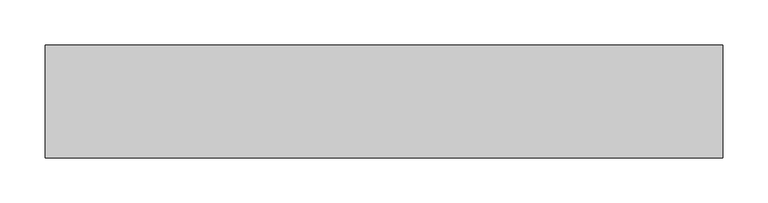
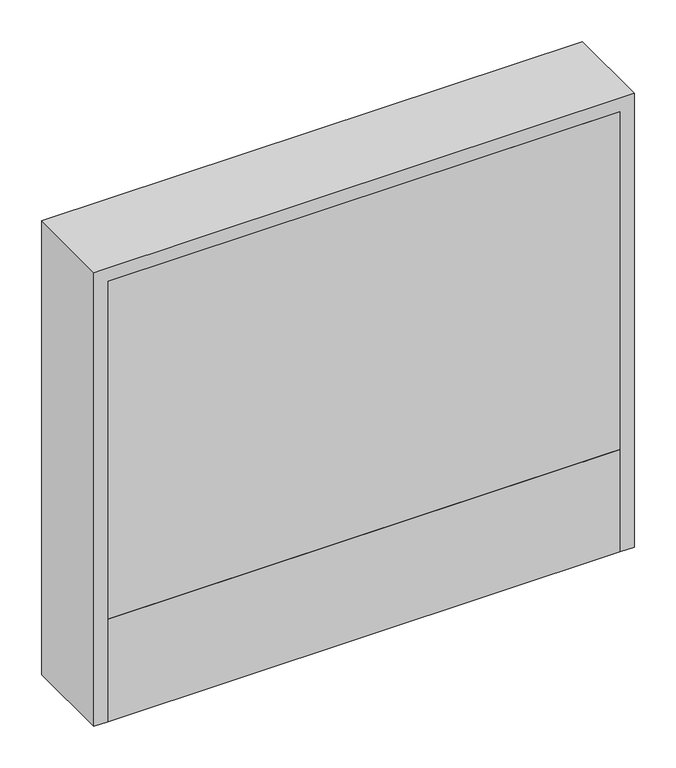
"""IFC4 building model written with IfcOpenShell, lengths in millimetres: valve geometry, PL AT Cabinet above plaster : FT-AK2 5-9 manifold loops."""

import ifcopenshell
import ifcopenshell.guid

model = None  # the IFC model being written
_history = None  # IfcOwnerHistory: only IFC2X3 demands one
_inside = {}  # id of a spatial element -> (the spatial element, [elements in it])
_under = {}  # id of a project, library or spatial element -> (it, [spatial elements below it])
_declared = {}  # id of a project -> (the project, [libraries it declares])
_typed = {}  # id of a type object -> (the type object, [elements of that type])
_made_of = {}  # id of a material, layer set ... -> (it, [elements and type objects made of it])


def new_model(schema):
    """Start an empty IFC model of exactly this schema.

    Asked for "IFC4X3", IfcOpenShell would pick the latest addendum, in which some entities
    have other attributes; the version numbers below select the first issue.
    IFC2X3 requires an IfcOwnerHistory on every rooted entity: one is made here for all.
    """
    global model, _history
    if schema == "IFC4X3":
        model = ifcopenshell.file(schema_version=(4, 3, 0, 0))
    else:
        model = ifcopenshell.file(schema=schema)
    _inside.clear()
    _under.clear()
    _declared.clear()
    _typed.clear()
    _made_of.clear()
    _history = None
    if model.schema == "IFC2X3":
        org = make("IfcOrganization", Name="unknown")
        user = make(
            "IfcPersonAndOrganization",
            ThePerson=make("IfcPerson", FamilyName="unknown"),
            TheOrganization=org,
        )
        app = make(
            "IfcApplication",
            ApplicationDeveloper=org,
            Version="unknown",
            ApplicationFullName="unknown",
            ApplicationIdentifier="unknown",
        )
        _history = make(
            "IfcOwnerHistory",
            OwningUser=user,
            OwningApplication=app,
            ChangeAction="ADDED",
            CreationDate=0,
        )
    return model


def make(cls, **values):
    """One entity of the class cls with the attributes given. An attribute that is None is left unset."""
    return model.create_entity(
        cls, **{name: value for name, value in values.items() if value is not None}
    )


def rooted(cls, **values):
    """An entity with a GlobalId (a new one), such as an element, a storey or a relation."""
    return make(cls, GlobalId=ifcopenshell.guid.new(), OwnerHistory=_history, **values)


def si_unit(unit_type, name, prefix=None):
    """IfcSIUnit, for example si_unit("LENGTHUNIT", "METRE", prefix="MILLI")."""
    return make("IfcSIUnit", UnitType=unit_type, Prefix=prefix, Name=name)


def assignment(units):
    """IfcUnitAssignment: the units of a project."""
    return None if units is None else make("IfcUnitAssignment", Units=units)


def point(xyz):
    """IfcCartesianPoint."""
    return None if xyz is None else make("IfcCartesianPoint", Coordinates=xyz)


def direction(xyz):
    """IfcDirection."""
    return None if xyz is None else make("IfcDirection", DirectionRatios=xyz)


def frame(location, z_axis=None, x_axis=None):
    """IfcAxis2Placement3D, a coordinate frame: its origin and axes. An axis left out is left unset."""
    return make(
        "IfcAxis2Placement3D",
        Location=point(location),
        Axis=direction(z_axis),
        RefDirection=direction(x_axis),
    )


def origin():
    """The frame at (0, 0, 0) with its axes left unset."""
    return frame((0.0, 0.0, 0.0))


def origin_with_axes():
    """The frame at (0, 0, 0) with the z axis (0, 0, 1) and the x axis (1, 0, 0) written out."""
    return frame((0.0, 0.0, 0.0), z_axis=(0.0, 0.0, 1.0), x_axis=(1.0, 0.0, 0.0))


def place(relative_to, where):
    """IfcLocalPlacement: puts the frame where relative to a parent placement (None: the world)."""
    return make(
        "IfcLocalPlacement", PlacementRelTo=relative_to, RelativePlacement=where
    )


def context(
    kind, dimensions, precision=None, world=None, true_north=None, identifier=None
):
    """IfcGeometricRepresentationContext, for example the 3D "Model" context."""
    return make(
        "IfcGeometricRepresentationContext",
        ContextIdentifier=identifier,
        ContextType=kind,
        CoordinateSpaceDimension=dimensions,
        Precision=precision,
        WorldCoordinateSystem=world,
        TrueNorth=true_north,
    )


def project(units=None, contexts=None):
    """IfcProject with its units and contexts."""
    return rooted(
        "IfcProject",
        Name="project",
        RepresentationContexts=contexts,
        UnitsInContext=assignment(units),
    )


def spatial(cls, under=None, at=None, **own):
    """A site, building, storey or space (cls), placed at a placement, below another one or the project."""
    s = rooted(cls, ObjectPlacement=at, **own)
    if under is not None:
        _under.setdefault(under.id(), (under, []))[1].append(s)
    return s


def polyline(points):
    """IfcPolyline through the points."""
    return make("IfcPolyline", Points=[point(p) for p in points])


def outline(outer, holes=None, kind="AREA"):
    """IfcArbitraryClosedProfileDef: a profile drawn as a closed curve; with holes, ...WithVoids."""
    if holes is None:
        return make("IfcArbitraryClosedProfileDef", ProfileType=kind, OuterCurve=outer)
    return make(
        "IfcArbitraryProfileDefWithVoids",
        ProfileType=kind,
        OuterCurve=outer,
        InnerCurves=holes,
    )


def extrude(swept, where, along, depth):
    """IfcExtrudedAreaSolid: the profile swept, set in the frame where, extruded along a direction by depth."""
    return make(
        "IfcExtrudedAreaSolid",
        SweptArea=swept,
        Position=where,
        ExtrudedDirection=direction(along),
        Depth=depth,
    )


def shape(context_of_items, identifier, shape_type, items):
    """IfcShapeRepresentation: the items that make up one representation, for example the "Body"."""
    return make(
        "IfcShapeRepresentation",
        ContextOfItems=context_of_items,
        RepresentationIdentifier=identifier,
        RepresentationType=shape_type,
        Items=items,
    )


def source(mapping_origin, context_of_items, identifier, shape_type, items):
    """IfcRepresentationMap: a shape defined once, which mapped items show again and again."""
    return make(
        "IfcRepresentationMap",
        MappingOrigin=mapping_origin,
        MappedRepresentation=shape(context_of_items, identifier, shape_type, items),
    )


def transform(
    local_origin,
    x_axis=None,
    y_axis=None,
    z_axis=None,
    scale=None,
    scale2=None,
    scale3=None,
    uniform=True,
):
    """IfcCartesianTransformationOperator3D, or its non-uniform kind. x_axis, y_axis, z_axis: its Axis1, 2, 3."""
    if uniform:
        return make(
            "IfcCartesianTransformationOperator3D",
            Axis1=direction(x_axis),
            Axis2=direction(y_axis),
            LocalOrigin=point(local_origin),
            Scale=scale,
            Axis3=direction(z_axis),
        )
    return make(
        "IfcCartesianTransformationOperator3DnonUniform",
        Axis1=direction(x_axis),
        Axis2=direction(y_axis),
        LocalOrigin=point(local_origin),
        Scale=scale,
        Axis3=direction(z_axis),
        Scale2=scale2,
        Scale3=scale3,
    )


def mapped(mapping_source, mapping_target):
    """IfcMappedItem: shows the shape of a source again, moved by a transform."""
    return make(
        "IfcMappedItem", MappingSource=mapping_source, MappingTarget=mapping_target
    )


def made_of(thing, what):
    """Note that an element or type object is made of a material, layer set ...; save() writes the relation."""
    if what is not None:
        _made_of.setdefault(what.id(), (what, []))[1].append(thing)
    return thing


def element(
    cls,
    number,
    at=None,
    inside=None,
    cuts=None,
    type_object=None,
    material=None,
    context=None,
    identifier="Body",
    shape_type=None,
    held_by="IfcProductDefinitionShape",
    body=None,
    shapes=None,
    **own,
):
    """One element of the class cls, such as IfcWall. Its Tag is "e" and its number.

    at: its placement. inside: the storey or other place that contains it. cuts: it is an
    opening in that element (IfcRelVoidsElement). A single representation is given by context,
    identifier, shape_type and body (its items); several are given by shapes. held_by: the class
    of the entity that holds the representations. save() writes the other relations.
    """
    e = rooted(cls, Tag="e%d" % number, ObjectPlacement=at, **own)
    if body is not None:
        shapes = [shape(context, identifier, shape_type, body)]
    if shapes is not None:
        e.Representation = make(held_by, Representations=shapes)
    if inside is not None:
        _inside.setdefault(inside.id(), (inside, []))[1].append(e)
    if cuts is not None:
        rooted(
            "IfcRelVoidsElement", RelatingBuildingElement=cuts, RelatedOpeningElement=e
        )
    if type_object is not None:
        _typed.setdefault(type_object.id(), (type_object, []))[1].append(e)
    return made_of(e, material)


def aggregate(whole, parts):
    """IfcRelAggregates: a whole, such as a stair, and the parts it consists of."""
    return rooted("IfcRelAggregates", RelatingObject=whole, RelatedObjects=parts)


def save(model, path):
    """Write the relations noted so far, then the file.

    IfcRelAggregates (storeys below a building ...), IfcRelContainedInSpatialStructure (elements
    in a storey), IfcRelDefinesByType, IfcRelAssociatesMaterial and IfcRelDeclares: one each for
    every whole, place, type object, material and project.
    """
    for whole, parts in _under.values():
        aggregate(whole, parts)
    for where, things in _inside.values():
        rooted(
            "IfcRelContainedInSpatialStructure",
            RelatedElements=things,
            RelatingStructure=where,
        )
    for kind, things in _typed.values():
        rooted("IfcRelDefinesByType", RelatedObjects=things, RelatingType=kind)
    for what, things in _made_of.values():
        rooted("IfcRelAssociatesMaterial", RelatedObjects=things, RelatingMaterial=what)
    for by, libraries in _declared.values():
        rooted("IfcRelDeclares", RelatingContext=by, RelatedDefinitions=libraries)
    model.write(path)


def valve_1ec624e3(model_context):
    return source(origin(), model_context, "Body", "SweptSolid", [
        extrude(outline(polyline([(355.0, 0.0), (-355.0, 0.0), (-355.0, 125.0), (355.0, 125.0), (355.0, 0.0)])), origin_with_axes(), (0.0, 0.0, 1.0), 150.0),
        extrude(outline(polyline([(355.0, 0.0), (-355.0, 0.0), (-355.0, 125.0), (355.0, 125.0), (355.0, 0.0)])), frame((0.0, 0.0, 150.0), z_axis=(0.0, 0.0, 1.0), x_axis=(1.0, 0.0, 0.0)), (0.0, 0.0, 1.0), 495.0),
        extrude(outline(polyline([(665.0, 375.0), (665.0, -375.0), (0.0, -375.0), (0.0, -355.0), (645.0, -355.0), (645.0, 355.0), (0.0, 355.0), (0.0, 375.0), (665.0, 375.0)])), frame((0.0, 0.0, 0.0), z_axis=(0.0, 1.0, 0.0), x_axis=(0.0, 0.0, 1.0)), (0.0, 0.0, 1.0), 125.0),
    ])


if __name__ == "__main__":
    model = new_model("IFC4")
    model_context = context("Model", 3, world=origin())
    ifc_project = project(units=[si_unit("LENGTHUNIT", "METRE", prefix="MILLI")], contexts=[model_context])
    site = spatial("IfcSite", under=ifc_project)
    building = spatial("IfcBuilding", under=site)
    placement = place(None, origin())
    valve_shape = valve_1ec624e3(model_context)
    element("IfcValve", 1, ObjectType="PL AT Cabinet above plaster : FT-AK2 5-9 manifold loops", at=placement, inside=building, context=model_context, shape_type="MappedRepresentation", body=[
        mapped(valve_shape, transform((0.0, 0.0, 0.0), x_axis=(1.0, 0.0, 0.0), y_axis=(0.0, 1.0, 0.0), z_axis=(0.0, 0.0, 1.0))),
    ])
    save(model, "model.ifc")
